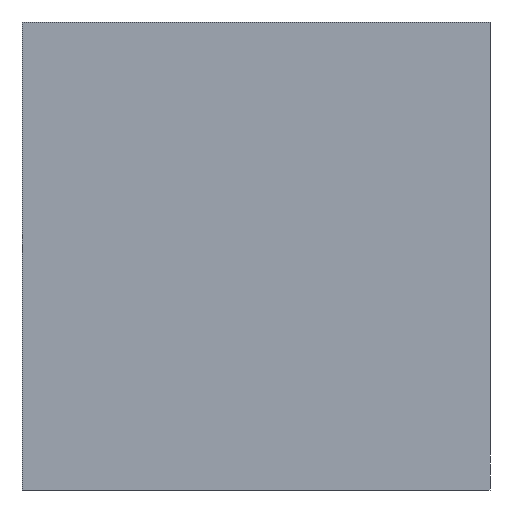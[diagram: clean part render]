
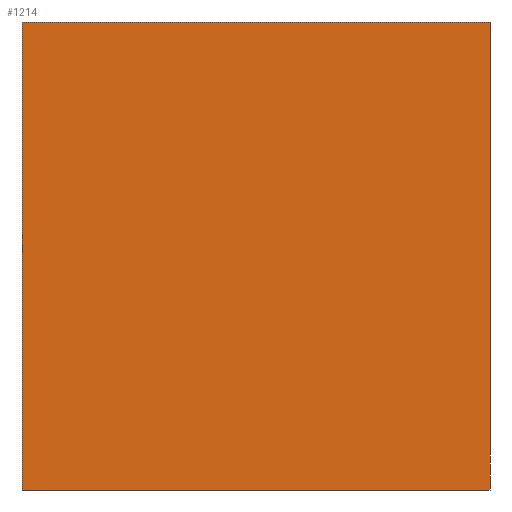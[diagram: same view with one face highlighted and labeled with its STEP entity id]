
A CAD part, left-side view. The second image highlights one B-rep face of the part: STEP entity #1214.
In plain terms, the highlighted planar face has unit normal (-1, 0, 0).
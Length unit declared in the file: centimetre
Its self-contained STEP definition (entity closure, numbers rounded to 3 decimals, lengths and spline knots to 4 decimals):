
#3 = CARTESIAN_POINT ( 'NONE',  ( 0., 1000., 1000. ) ) ;
#23 = CARTESIAN_POINT ( 'NONE',  ( 0., 1000., 0. ) ) ;
#34 = DIRECTION ( 'NONE',  ( 0., 0., -1. ) ) ;
#113 = VERTEX_POINT ( 'NONE', #23 ) ;
#117 = VECTOR ( 'NONE', #1404, 100. ) ;
#128 = DIRECTION ( 'NONE',  ( 0., 0., -1. ) ) ;
#144 = PLANE ( 'NONE',  #931 ) ;
#214 = LINE ( 'NONE', #1427, #117 ) ;
#232 = LINE ( 'NONE', #455, #626 ) ;
#326 = VERTEX_POINT ( 'NONE', #1390 ) ;
#333 = ORIENTED_EDGE ( 'NONE', *, *, #1185, .F. ) ;
#358 = CARTESIAN_POINT ( 'NONE',  ( 0., 0., 1000. ) ) ;
#441 = VECTOR ( 'NONE', #34, 100. ) ;
#448 = DIRECTION ( 'NONE',  ( 0., -1., 0. ) ) ;
#455 = CARTESIAN_POINT ( 'NONE',  ( 0., 1000., 1000. ) ) ;
#532 = CARTESIAN_POINT ( 'NONE',  ( 0., 0., 1000. ) ) ;
#548 = VERTEX_POINT ( 'NONE', #532 ) ;
#560 = DIRECTION ( 'NONE',  ( 1., 0., 0. ) ) ;
#626 = VECTOR ( 'NONE', #448, 100. ) ;
#638 = ORIENTED_EDGE ( 'NONE', *, *, #706, .T. ) ;
#705 = VECTOR ( 'NONE', #1223, 100. ) ;
#706 = EDGE_CURVE ( 'NONE', #326, #113, #1111, .T. ) ;
#793 = CARTESIAN_POINT ( 'NONE',  ( 0., 1000., 1000. ) ) ;
#931 = AXIS2_PLACEMENT_3D ( 'NONE', #3, #560, #128 ) ;
#957 = VERTEX_POINT ( 'NONE', #1252 ) ;
#1026 = ORIENTED_EDGE ( 'NONE', *, *, #1321, .F. ) ;
#1102 = ORIENTED_EDGE ( 'NONE', *, *, #1405, .T. ) ;
#1111 = LINE ( 'NONE', #793, #705 ) ;
#1126 = EDGE_LOOP ( 'NONE', ( #1102, #333, #1026, #638 ) ) ;
#1185 = EDGE_CURVE ( 'NONE', #548, #957, #1240, .T. ) ;
#1214 = ADVANCED_FACE ( 'NONE', ( #1218 ), #144, .F. ) ;
#1218 = FACE_OUTER_BOUND ( 'NONE', #1126, .T. ) ;
#1223 = DIRECTION ( 'NONE',  ( 0., 0., -1. ) ) ;
#1240 = LINE ( 'NONE', #358, #441 ) ;
#1252 = CARTESIAN_POINT ( 'NONE',  ( 0., 0., 0. ) ) ;
#1321 = EDGE_CURVE ( 'NONE', #326, #548, #232, .T. ) ;
#1390 = CARTESIAN_POINT ( 'NONE',  ( 0., 1000., 1000. ) ) ;
#1404 = DIRECTION ( 'NONE',  ( 0., -1., 0. ) ) ;
#1405 = EDGE_CURVE ( 'NONE', #113, #957, #214, .T. ) ;
#1427 = CARTESIAN_POINT ( 'NONE',  ( 0., 1000., 0. ) ) ;
